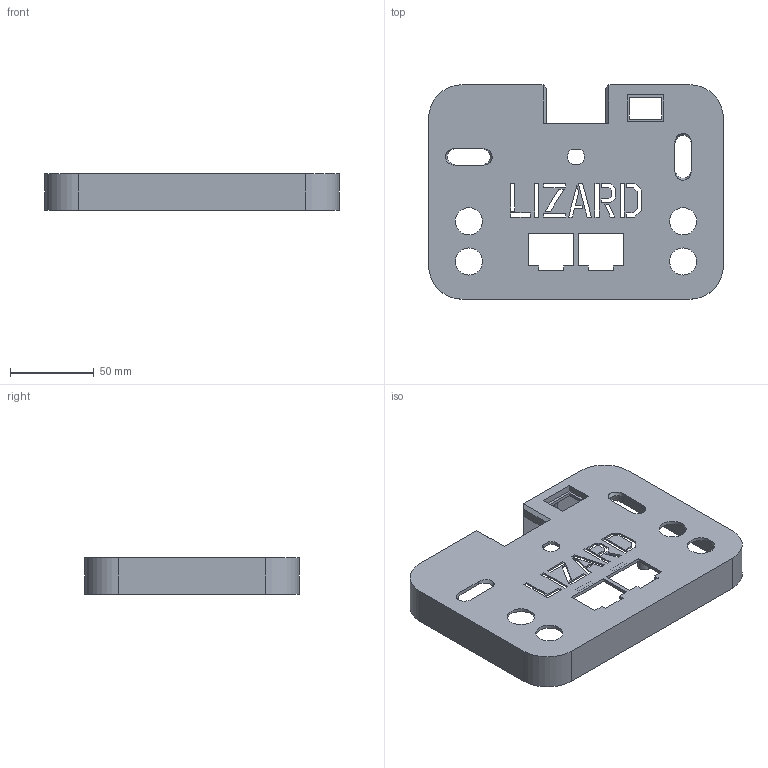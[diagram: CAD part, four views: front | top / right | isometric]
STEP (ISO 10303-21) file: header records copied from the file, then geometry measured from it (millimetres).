
FILE_DESCRIPTION(/* description */ (''),/* implementation_level */ '2;1');
FILE_NAME(/* name */ '6-02-1 RC upper body.step',/* time_stamp */ '2025-05-10T22:36:43+02:00',/* author */ (''),/* organization */ (''),/* preprocessor_version */ 'ST-DEVELOPER v20.1',/* originating_system */ 'Autodesk Translation Framework v14.4.0.0',/* authorisation */ '');
FILE_SCHEMA (('AUTOMOTIVE_DESIGN { 1 0 10303 214 3 1 1 }'));
Length unit declared in the file: millimetre
Products named in the file (1): 6-02-1 RC upper body
Bounding box: 176 x 128 x 22 mm (x, y, z)
Volume: 88478.8 mm3; surface area: 64313.4 mm2
Topology: 1 solids, 1 shells, 231 faces, 641 edges, 422 vertices
Faces by surface type: plane 187, cylinder 44
Full cylindrical faces by diameter (mm): 4.1 x10, 8 x4, 16.2 x4
Entity records: 7448 total; most frequent: CARTESIAN_POINT 1295, ORIENTED_EDGE 1282, DIRECTION 1206, EDGE_CURVE 641, LINE 540, VECTOR 540, VERTEX_POINT 422, AXIS2_PLACEMENT_3D 333
